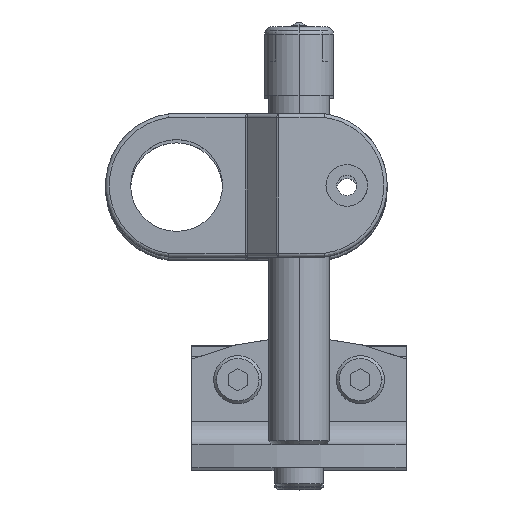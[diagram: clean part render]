
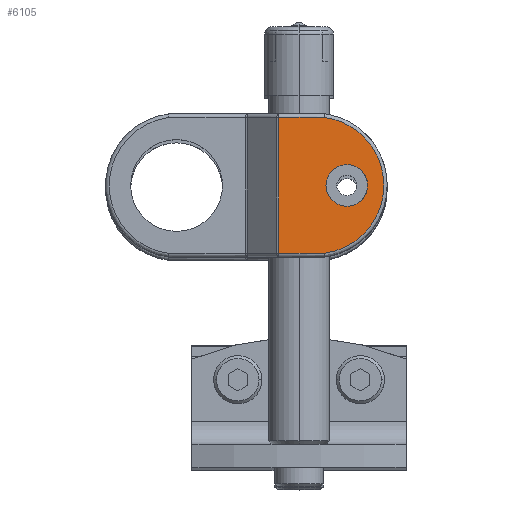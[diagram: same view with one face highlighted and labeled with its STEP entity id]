
A CAD part, top view. The second image highlights one B-rep face of the part: STEP entity #6105.
In plain terms, the highlighted planar face has unit normal (0.067, 0, 0.998) as drawn and (0.998, -0.067, 0) by its records, which use the part's own axes.
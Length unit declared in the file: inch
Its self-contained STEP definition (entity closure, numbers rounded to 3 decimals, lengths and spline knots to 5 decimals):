
#4325=DIRECTION('',(0.,0.,-1.));
#4326=VECTOR('',#4325,1.11);
#4327=CARTESIAN_POINT('',(0.40939,-0.26406,
0.555));
#4328=LINE('',#4327,#4326);
#4357=DIRECTION('',(-0.067,-0.998,0.));
#4358=VECTOR('',#4357,0.37344);
#4359=CARTESIAN_POINT('',(0.40939,-0.26406,
-0.555));
#4360=LINE('',#4359,#4358);
#4518=CARTESIAN_POINT('',(0.38352,-0.64999,
-0.00007));
#4519=CARTESIAN_POINT('',(0.38352,-0.64999,
0.0107));
#4520=CARTESIAN_POINT('',(0.38339,-0.65196,
0.03201));
#4521=CARTESIAN_POINT('',(0.38274,-0.66156,
0.06476));
#4522=CARTESIAN_POINT('',(0.38166,-0.67769,
0.09498));
#4523=CARTESIAN_POINT('',(0.38027,-0.69852,
0.12038));
#4524=CARTESIAN_POINT('',(0.37857,-0.72377,
0.14152));
#4525=CARTESIAN_POINT('',(0.37652,-0.75443,
0.15807));
#4526=CARTESIAN_POINT('',(0.3744,-0.78606,
0.16766));
#4527=CARTESIAN_POINT('',(0.37289,-0.80852,
0.17));
#4528=CARTESIAN_POINT('',(0.37213,-0.81997,
0.17));
#4530=CARTESIAN_POINT('',(0.37212,-0.82003,
-0.17));
#4531=CARTESIAN_POINT('',(0.37288,-0.8087,
-0.17));
#4532=CARTESIAN_POINT('',(0.37436,-0.78664,
-0.1678));
#4533=CARTESIAN_POINT('',(0.37652,-0.75444,
-0.15804));
#4534=CARTESIAN_POINT('',(0.3785,-0.72488,
-0.14222));
#4535=CARTESIAN_POINT('',(0.38024,-0.69896,
-0.12093));
#4536=CARTESIAN_POINT('',(0.38166,-0.6777,
-0.09498));
#4537=CARTESIAN_POINT('',(0.38272,-0.6619,
-0.06543));
#4538=CARTESIAN_POINT('',(0.38337,-0.65219,
-0.03326));
#4539=CARTESIAN_POINT('',(0.38352,-0.64999,
-0.01125));
#4540=CARTESIAN_POINT('',(0.38352,-0.64999,
-0.00007));
#4546=CARTESIAN_POINT('',(0.36073,-0.99001,
0.00007));
#4547=CARTESIAN_POINT('',(0.36073,-0.99001,
-0.0107));
#4548=CARTESIAN_POINT('',(0.36086,-0.98804,
-0.03201));
#4549=CARTESIAN_POINT('',(0.3615,-0.97844,
-0.06476));
#4550=CARTESIAN_POINT('',(0.36258,-0.96231,
-0.09498));
#4551=CARTESIAN_POINT('',(0.36398,-0.94148,
-0.12038));
#4552=CARTESIAN_POINT('',(0.36567,-0.91623,
-0.14152));
#4553=CARTESIAN_POINT('',(0.36773,-0.88557,
-0.15807));
#4554=CARTESIAN_POINT('',(0.36985,-0.85394,
-0.16766));
#4555=CARTESIAN_POINT('',(0.37135,-0.83148,
-0.17));
#4556=CARTESIAN_POINT('',(0.37212,-0.82003,
-0.17));
#4558=CARTESIAN_POINT('',(0.37213,-0.81997,
0.17));
#4559=CARTESIAN_POINT('',(0.37137,-0.8313,
0.17));
#4560=CARTESIAN_POINT('',(0.36989,-0.85336,
0.1678));
#4561=CARTESIAN_POINT('',(0.36773,-0.88556,
0.15804));
#4562=CARTESIAN_POINT('',(0.36575,-0.91512,
0.14222));
#4563=CARTESIAN_POINT('',(0.36401,-0.94104,
0.12093));
#4564=CARTESIAN_POINT('',(0.36258,-0.9623,
0.09498));
#4565=CARTESIAN_POINT('',(0.36152,-0.9781,
0.06543));
#4566=CARTESIAN_POINT('',(0.36087,-0.98781,
0.03326));
#4567=CARTESIAN_POINT('',(0.36073,-0.99001,
0.01125));
#4568=CARTESIAN_POINT('',(0.36073,-0.99001,
0.00007));
#4570=CARTESIAN_POINT('',(0.38441,-0.63667,
0.555));
#4571=CARTESIAN_POINT('',(0.37996,-0.70305,
0.54607));
#4572=CARTESIAN_POINT('',(0.37128,-0.83258,
0.50411));
#4573=CARTESIAN_POINT('',(0.36056,-0.99252,
0.37687));
#4574=CARTESIAN_POINT('',(0.35351,-1.09759,
0.20136));
#4575=CARTESIAN_POINT('',(0.35106,-1.1342,
0.));
#4576=CARTESIAN_POINT('',(0.35351,-1.09758,
-0.20137));
#4577=CARTESIAN_POINT('',(0.36056,-0.99252,
-0.37687));
#4578=CARTESIAN_POINT('',(0.37128,-0.83258,
-0.50412));
#4579=CARTESIAN_POINT('',(0.37996,-0.70305,
-0.54607));
#4580=CARTESIAN_POINT('',(0.38441,-0.63666,
-0.555));
#4582=DIRECTION('',(0.067,0.998,0.));
#4583=VECTOR('',#4582,0.37344);
#4584=CARTESIAN_POINT('',(0.38441,-0.63667,
0.555));
#4585=LINE('',#4584,#4583);
#4663=CARTESIAN_POINT('',(0.40939,-0.26406,
-0.555));
#4664=CARTESIAN_POINT('',(0.38441,-0.63666,
-0.555));
#4665=VERTEX_POINT('',#4663);
#4666=VERTEX_POINT('',#4664);
#4669=CARTESIAN_POINT('',(0.40939,-0.26406,
0.555));
#4671=VERTEX_POINT('',#4669);
#4681=CARTESIAN_POINT('',(0.38441,-0.63667,
0.555));
#4682=VERTEX_POINT('',#4681);
#4684=VERTEX_POINT('',#4518);
#4685=VERTEX_POINT('',#4528);
#4688=CARTESIAN_POINT('',(0.37212,-0.82003,
-0.17));
#4689=VERTEX_POINT('',#4688);
#4695=VERTEX_POINT('',#4546);
#6087=CARTESIAN_POINT('',(0.35,-1.15,-0.585));
#6088=DIRECTION('',(0.998,-0.067,0.));
#6089=DIRECTION('',(0.067,0.998,0.));
#6090=AXIS2_PLACEMENT_3D('',#6087,#6088,#6089);
#6091=PLANE('',#6090);
#6092=ORIENTED_EDGE('',*,*,#5841,.T.);
#6093=ORIENTED_EDGE('',*,*,#5945,.F.);
#6095=ORIENTED_EDGE('',*,*,#6094,.T.);
#6096=ORIENTED_EDGE('',*,*,#5776,.T.);
#6097=EDGE_LOOP('',(#6092,#6093,#6095,#6096));
#6098=FACE_OUTER_BOUND('',#6097,.F.);
#6099=ORIENTED_EDGE('',*,*,#6081,.T.);
#6100=ORIENTED_EDGE('',*,*,#6079,.T.);
#6101=ORIENTED_EDGE('',*,*,#6064,.T.);
#6102=ORIENTED_EDGE('',*,*,#6062,.T.);
#6103=EDGE_LOOP('',(#6099,#6100,#6101,#6102));
#6104=FACE_BOUND('',#6103,.F.);
#4529=B_SPLINE_CURVE_WITH_KNOTS('',3,(#4518,#4519,#4520,#4521,#4522,#4523,#4524,
#4525,#4526,#4527,#4528),.UNSPECIFIED.,.F.,.F.,(4,1,1,1,1,1,1,1,4),(0.,
0.125,0.25,0.375,0.5,0.625,0.75,0.875,1.),.UNSPECIFIED.);
#4541=B_SPLINE_CURVE_WITH_KNOTS('',3,(#4530,#4531,#4532,#4533,#4534,#4535,#4536,
#4537,#4538,#4539,#4540),.UNSPECIFIED.,.F.,.F.,(4,1,1,1,1,1,1,1,4),(0.,
0.125,0.25,0.375,0.5,0.625,0.75,0.875,1.),.UNSPECIFIED.);
#4557=B_SPLINE_CURVE_WITH_KNOTS('',3,(#4546,#4547,#4548,#4549,#4550,#4551,#4552,
#4553,#4554,#4555,#4556),.UNSPECIFIED.,.F.,.F.,(4,1,1,1,1,1,1,1,4),(0.,
0.125,0.25,0.375,0.5,0.625,0.75,0.875,1.),.UNSPECIFIED.);
#4569=B_SPLINE_CURVE_WITH_KNOTS('',3,(#4558,#4559,#4560,#4561,#4562,#4563,#4564,
#4565,#4566,#4567,#4568),.UNSPECIFIED.,.F.,.F.,(4,1,1,1,1,1,1,1,4),(0.,
0.125,0.25,0.375,0.5,0.625,0.75,0.875,1.),.UNSPECIFIED.);
#4581=B_SPLINE_CURVE_WITH_KNOTS('',3,(#4570,#4571,#4572,#4573,#4574,#4575,#4576,
#4577,#4578,#4579,#4580),.UNSPECIFIED.,.F.,.F.,(4,1,1,1,1,1,1,1,4),(0.,
0.125,0.25,0.375,0.5,0.625,0.75,0.875,1.),.UNSPECIFIED.);
#5776=EDGE_CURVE('',#4671,#4665,#4328,.T.);
#5841=EDGE_CURVE('',#4665,#4666,#4360,.T.);
#5945=EDGE_CURVE('',#4682,#4666,#4581,.T.);
#6062=EDGE_CURVE('',#4684,#4685,#4529,.T.);
#6064=EDGE_CURVE('',#4689,#4684,#4541,.T.);
#6079=EDGE_CURVE('',#4695,#4689,#4557,.T.);
#6081=EDGE_CURVE('',#4685,#4695,#4569,.T.);
#6094=EDGE_CURVE('',#4682,#4671,#4585,.T.);
#6105=ADVANCED_FACE('',(#6098,#6104),#6091,.T.);
